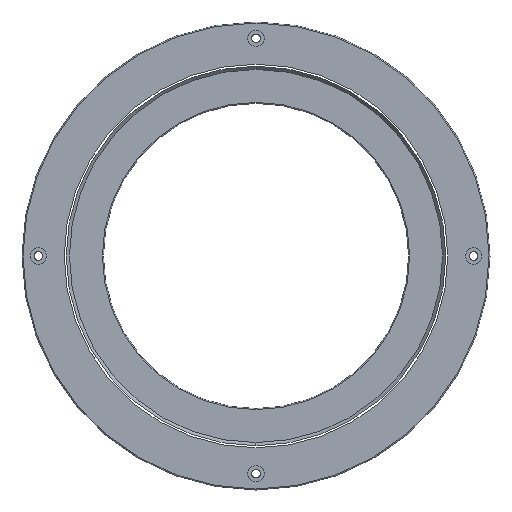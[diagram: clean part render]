
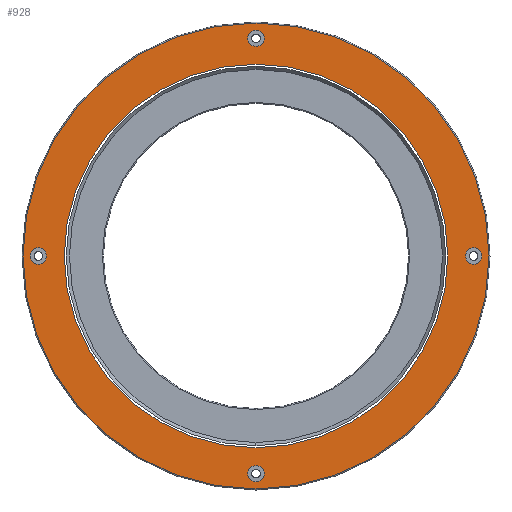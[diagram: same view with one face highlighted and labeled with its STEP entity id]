
A CAD part, front view. The second image highlights one B-rep face of the part: STEP entity #928.
In plain terms, the highlighted planar face has unit normal (0, -1, 0).
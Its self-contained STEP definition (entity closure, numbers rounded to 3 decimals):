
#43=CARTESIAN_POINT('',(0.,-15.,0.));
#44=DIRECTION('',(0.,-1.,0.));
#45=DIRECTION('',(-1.,0.,0.));
#46=AXIS2_PLACEMENT_3D('',#43,#44,#45);
#48=CARTESIAN_POINT('',(0.,-15.,0.));
#49=DIRECTION('',(0.,1.,0.));
#50=DIRECTION('',(-1.,0.,0.));
#51=AXIS2_PLACEMENT_3D('',#48,#49,#50);
#53=CARTESIAN_POINT('',(-107.,-15.,0.));
#54=DIRECTION('',(0.,1.,0.));
#55=DIRECTION('',(1.,0.,0.));
#56=AXIS2_PLACEMENT_3D('',#53,#54,#55);
#58=CARTESIAN_POINT('',(-107.,-15.,0.));
#59=DIRECTION('',(0.,1.,0.));
#60=DIRECTION('',(-1.,0.,0.));
#61=AXIS2_PLACEMENT_3D('',#58,#59,#60);
#63=CARTESIAN_POINT('',(0.,-15.,107.));
#64=DIRECTION('',(0.,1.,0.));
#65=DIRECTION('',(0.,0.,-1.));
#66=AXIS2_PLACEMENT_3D('',#63,#64,#65);
#68=CARTESIAN_POINT('',(0.,-15.,107.));
#69=DIRECTION('',(0.,1.,0.));
#70=DIRECTION('',(0.,0.,1.));
#71=AXIS2_PLACEMENT_3D('',#68,#69,#70);
#73=CARTESIAN_POINT('',(107.,-15.,0.));
#74=DIRECTION('',(0.,1.,0.));
#75=DIRECTION('',(-1.,0.,0.));
#76=AXIS2_PLACEMENT_3D('',#73,#74,#75);
#78=CARTESIAN_POINT('',(107.,-15.,0.));
#79=DIRECTION('',(0.,1.,0.));
#80=DIRECTION('',(1.,0.,0.));
#81=AXIS2_PLACEMENT_3D('',#78,#79,#80);
#83=CARTESIAN_POINT('',(0.,-15.,-107.));
#84=DIRECTION('',(0.,1.,0.));
#85=DIRECTION('',(0.,0.,1.));
#86=AXIS2_PLACEMENT_3D('',#83,#84,#85);
#88=CARTESIAN_POINT('',(0.,-15.,-107.));
#89=DIRECTION('',(0.,1.,0.));
#90=DIRECTION('',(0.,0.,-1.));
#91=AXIS2_PLACEMENT_3D('',#88,#89,#90);
#93=CARTESIAN_POINT('',(0.,-15.,0.));
#94=DIRECTION('',(0.,1.,0.));
#95=DIRECTION('',(-1.,0.,0.));
#96=AXIS2_PLACEMENT_3D('',#93,#94,#95);
#98=CARTESIAN_POINT('',(0.,-15.,0.));
#99=DIRECTION('',(0.,1.,0.));
#100=DIRECTION('',(1.,0.,0.));
#101=AXIS2_PLACEMENT_3D('',#98,#99,#100);
#751=CARTESIAN_POINT('',(-103.,-15.,0.));
#752=VERTEX_POINT('',#751);
#753=CARTESIAN_POINT('',(-111.,-15.,0.));
#754=VERTEX_POINT('',#753);
#763=CARTESIAN_POINT('',(0.,-15.,103.));
#764=VERTEX_POINT('',#763);
#765=CARTESIAN_POINT('',(0.,-15.,111.));
#766=VERTEX_POINT('',#765);
#775=CARTESIAN_POINT('',(103.,-15.,0.));
#776=VERTEX_POINT('',#775);
#777=CARTESIAN_POINT('',(111.,-15.,0.));
#778=VERTEX_POINT('',#777);
#787=CARTESIAN_POINT('',(0.,-15.,-103.));
#788=VERTEX_POINT('',#787);
#789=CARTESIAN_POINT('',(0.,-15.,-111.));
#790=VERTEX_POINT('',#789);
#808=CARTESIAN_POINT('',(-94.25,-15.,0.));
#810=VERTEX_POINT('',#808);
#812=CARTESIAN_POINT('',(94.25,-15.,0.));
#814=VERTEX_POINT('',#812);
#827=CARTESIAN_POINT('',(-114.5,-15.,0.));
#828=CARTESIAN_POINT('',(114.5,-15.,0.));
#829=VERTEX_POINT('',#827);
#830=VERTEX_POINT('',#828);
#889=CARTESIAN_POINT('',(0.,-15.,0.));
#890=DIRECTION('',(0.,1.,0.));
#891=DIRECTION('',(1.,0.,0.));
#892=AXIS2_PLACEMENT_3D('',#889,#890,#891);
#893=PLANE('',#892);
#895=ORIENTED_EDGE('',*,*,#894,.T.);
#897=ORIENTED_EDGE('',*,*,#896,.T.);
#898=EDGE_LOOP('',(#895,#897));
#899=FACE_OUTER_BOUND('',#898,.F.);
#900=ORIENTED_EDGE('',*,*,#868,.F.);
#901=ORIENTED_EDGE('',*,*,#884,.F.);
#902=EDGE_LOOP('',(#900,#901));
#903=FACE_BOUND('',#902,.F.);
#905=ORIENTED_EDGE('',*,*,#904,.F.);
#907=ORIENTED_EDGE('',*,*,#906,.F.);
#908=EDGE_LOOP('',(#905,#907));
#909=FACE_BOUND('',#908,.F.);
#911=ORIENTED_EDGE('',*,*,#910,.F.);
#913=ORIENTED_EDGE('',*,*,#912,.F.);
#914=EDGE_LOOP('',(#911,#913));
#915=FACE_BOUND('',#914,.F.);
#917=ORIENTED_EDGE('',*,*,#916,.F.);
#919=ORIENTED_EDGE('',*,*,#918,.F.);
#920=EDGE_LOOP('',(#917,#919));
#921=FACE_BOUND('',#920,.F.);
#923=ORIENTED_EDGE('',*,*,#922,.T.);
#925=ORIENTED_EDGE('',*,*,#924,.F.);
#926=EDGE_LOOP('',(#923,#925));
#927=FACE_BOUND('',#926,.F.);
#47=CIRCLE('',#46,94.25);
#52=CIRCLE('',#51,94.25);
#57=CIRCLE('',#56,4.);
#62=CIRCLE('',#61,4.);
#67=CIRCLE('',#66,4.);
#72=CIRCLE('',#71,4.);
#77=CIRCLE('',#76,4.);
#82=CIRCLE('',#81,4.);
#87=CIRCLE('',#86,4.);
#92=CIRCLE('',#91,4.);
#97=CIRCLE('',#96,114.5);
#102=CIRCLE('',#101,114.5);
#868=EDGE_CURVE('',#752,#754,#57,.T.);
#884=EDGE_CURVE('',#754,#752,#62,.T.);
#894=EDGE_CURVE('',#829,#830,#97,.T.);
#896=EDGE_CURVE('',#830,#829,#102,.T.);
#904=EDGE_CURVE('',#764,#766,#67,.T.);
#906=EDGE_CURVE('',#766,#764,#72,.T.);
#910=EDGE_CURVE('',#776,#778,#77,.T.);
#912=EDGE_CURVE('',#778,#776,#82,.T.);
#916=EDGE_CURVE('',#788,#790,#87,.T.);
#918=EDGE_CURVE('',#790,#788,#92,.T.);
#922=EDGE_CURVE('',#810,#814,#47,.T.);
#924=EDGE_CURVE('',#810,#814,#52,.T.);
#928=ADVANCED_FACE('',(#899,#903,#909,#915,#921,#927),#893,.F.);
